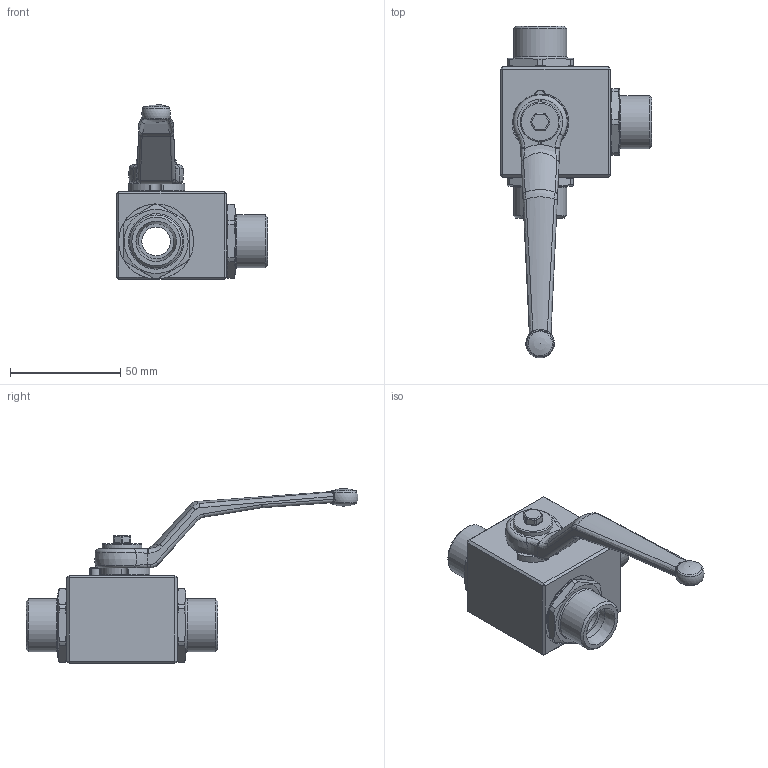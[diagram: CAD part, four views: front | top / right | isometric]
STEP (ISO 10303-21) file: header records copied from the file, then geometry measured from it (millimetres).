
FILE_DESCRIPTION( ( 'Unknown' ), '1' );
FILE_NAME( 'H:/PISTER/3D-MODELLE/BK3-Edelstahl stp/BK3-Edelst DN13 16S.stp', 'Unknown', ( 'Unknown' ), ( 'Unknown' ), 'PSStep 14.0', 'Unknown', ' ' );
FILE_SCHEMA( ( 'AUTOMOTIVE_DESIGN { 1 0 10303 214 1 1 1 1 }' ) );
Length unit declared in the file: millimetre
Products named in the file (11): Assem1; 09-09-003; 58-28740-16-oa2; 58-0440-009; 58-0933-235; 03-013-004-oa4; 04-013-049-oa5; 04-013-049-oa6; 56-032-005-oa11; Griff_SW9; 01-013-044-oa12
Assembly tree (10 placements, depth 2):
  Assem1
    09-09-003
    58-28740-16-oa2
    58-0440-009
    58-0933-235
    03-013-004-oa4
    04-013-049-oa5
    04-013-049-oa6
    56-032-005-oa11
    Griff_SW9
    01-013-044-oa12
Bounding box: 68.5 x 150.5 x 79.3 mm (x, y, z)
Volume: 92212.4 mm3; surface area: 38161.6 mm2
Topology: 10 solids, 10 shells, 367 faces, 912 edges, 572 vertices
Faces by surface type: plane 145, cylinder 120, bspline 36, torus 35, cone 27, sphere 4
Full cylindrical faces by diameter (mm): 4.2 x1, 4.98 x1, 5 x1, 5.8 x1, 13 x3, 14 x2, 16 x3, 18 x1, 23.1 x1, 24 x3, 24.376 x1, 24.5 x1, 26 x2, 26.35 x1, 29 x3, 29.5 x3, 34 x3
Entity records: 15325 total; most frequent: CARTESIAN_POINT 4287, DIRECTION 1676, ORIENTED_EDGE 1610, EDGE_CURVE 805, AXIS2_PLACEMENT_3D 671, VERTEX_POINT 533, EDGE_LOOP 461, FACE_OUTER_BOUND 409
